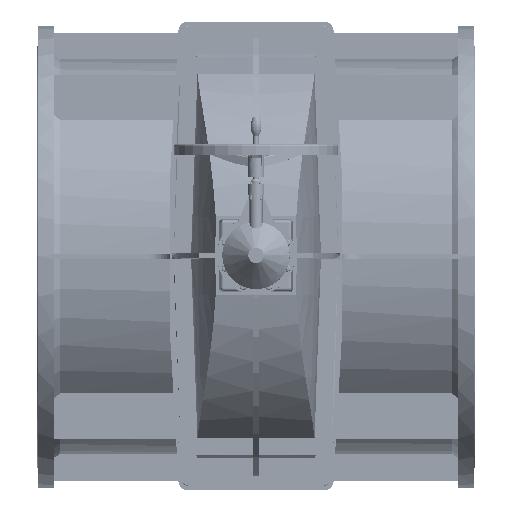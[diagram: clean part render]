
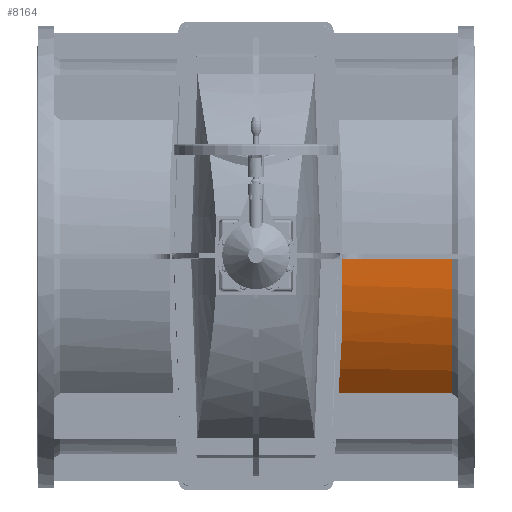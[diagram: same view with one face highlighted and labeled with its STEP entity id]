
A CAD part, top view. The second image highlights one B-rep face of the part: STEP entity #8164.
In plain terms, the highlighted cylindrical face has radius 720 mm (diameter 1440 mm), a partial arc.
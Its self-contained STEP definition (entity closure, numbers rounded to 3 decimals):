
#8164=ADVANCED_FACE('',(#12547),#12549,.T.);
#12547=FACE_BOUND('',#12548,.T.);
#12548=EDGE_LOOP('',(#30185,#30186,#30187,#30188));
#12549=CYLINDRICAL_SURFACE('',#12550,720.);
#12550=AXIS2_PLACEMENT_3D('',#12551,#12552,#12553);
#12551=CARTESIAN_POINT('',(735.,0.,0.));
#12552=DIRECTION('',(-1.,0.,0.));
#12553=DIRECTION('',(0.,1.,0.));
#30185=ORIENTED_EDGE('',*,*,#38823,.F.);
#30186=ORIENTED_EDGE('',*,*,#38953,.T.);
#30187=ORIENTED_EDGE('',*,*,#38917,.F.);
#30188=ORIENTED_EDGE('',*,*,#38882,.T.);
#38823=EDGE_CURVE('',#43644,#43646,#43647,.T.);
#38882=EDGE_CURVE('',#43737,#43646,#43738,.F.);
#38917=EDGE_CURVE('',#43737,#43803,#43804,.F.);
#38953=EDGE_CURVE('',#43644,#43803,#43860,.T.);
#43644=VERTEX_POINT('',#52748);
#43646=VERTEX_POINT('',#52759);
#43647=LINE('',#52760,#52761);
#43737=VERTEX_POINT('',#53000);
#43738=B_SPLINE_CURVE_WITH_KNOTS('',3,
(#53001,#53002,#53003,#53004,#53005,#53006,#53007,#53008,#53009,#53010,#53011,#53012,
#53013,#53014,#53015,#53016,#53017,#53018,#53019,#53020,#53021,#53022,#53023,#53024,
#53025,#53026,#53027,#53028,#53029,#53030,#53031,#53032,#53033,#53034,#53035,#53036),
.UNSPECIFIED.,.F.,.F.,
(4,1,1,1,1,1,1,1,1,1,1,1,1,1,1,1,1,1,1,1,1,1,1,1,1,1,1,1,1,1,1,1,1,4),
(0.,0.033,0.065,0.098,0.13,0.162,
0.194,0.226,0.258,0.29,0.322,
0.354,0.385,0.416,0.447,0.477,
0.516,0.555,0.593,0.62,0.647,
0.675,0.705,0.745,0.785,0.822,
0.848,0.871,0.9,0.928,0.954,
0.972,0.987,1.),
.UNSPECIFIED.);
#43803=VERTEX_POINT('',#53303);
#43804=LINE('',#53304,#53305);
#43860=CIRCLE('',#53491,720.);
#52748=CARTESIAN_POINT('',(715.,-498.964,519.072));
#52759=CARTESIAN_POINT('',(218.196,-498.964,519.072));
#52760=CARTESIAN_POINT('',(715.,-498.964,519.072));
#52761=VECTOR('',#52762,1.);
#52762=DIRECTION('',(-1.,0.,0.));
#53000=CARTESIAN_POINT('',(244.956,-10.,719.931));
#53001=CARTESIAN_POINT('',(218.196,-498.964,519.072));
#53002=CARTESIAN_POINT('',(218.634,-494.721,523.15));
#53003=CARTESIAN_POINT('',(219.514,-486.106,531.23));
#53004=CARTESIAN_POINT('',(220.83,-472.915,543.006));
#53005=CARTESIAN_POINT('',(222.135,-459.492,554.409));
#53006=CARTESIAN_POINT('',(223.424,-445.886,565.409));
#53007=CARTESIAN_POINT('',(224.696,-432.087,576.022));
#53008=CARTESIAN_POINT('',(225.953,-418.058,586.283));
#53009=CARTESIAN_POINT('',(227.191,-403.809,596.186));
#53010=CARTESIAN_POINT('',(228.41,-389.339,605.735));
#53011=CARTESIAN_POINT('',(229.603,-374.685,614.907));
#53012=CARTESIAN_POINT('',(230.766,-359.881,623.686));
#53013=CARTESIAN_POINT('',(231.892,-344.993,632.041));
#53014=CARTESIAN_POINT('',(232.98,-330.032,639.979));
#53015=CARTESIAN_POINT('',(234.024,-315.065,647.477));
#53016=CARTESIAN_POINT('',(235.023,-300.102,654.545));
#53017=CARTESIAN_POINT('',(236.074,-283.605,661.882));
#53018=CARTESIAN_POINT('',(237.159,-265.562,669.347));
#53019=CARTESIAN_POINT('',(238.256,-246.003,676.776));
#53020=CARTESIAN_POINT('',(239.175,-228.338,682.91));
#53021=CARTESIAN_POINT('',(239.938,-212.589,687.951));
#53022=CARTESIAN_POINT('',(240.582,-198.439,692.167));
#53023=CARTESIAN_POINT('',(241.206,-183.718,696.225));
#53024=CARTESIAN_POINT('',(241.883,-166.45,700.584));
#53025=CARTESIAN_POINT('',(242.561,-147.12,704.92));
#53026=CARTESIAN_POINT('',(243.195,-126.303,708.937));
#53027=CARTESIAN_POINT('',(243.668,-108.101,711.908));
#53028=CARTESIAN_POINT('',(244.013,-92.563,714.067));
#53029=CARTESIAN_POINT('',(244.282,-78.586,715.746));
#53030=CARTESIAN_POINT('',(244.514,-64.18,717.188));
#53031=CARTESIAN_POINT('',(244.703,-49.251,718.364));
#53032=CARTESIAN_POINT('',(244.824,-36.372,719.114));
#53033=CARTESIAN_POINT('',(244.896,-25.731,719.558));
#53034=CARTESIAN_POINT('',(244.935,-17.507,719.801));
#53035=CARTESIAN_POINT('',(244.951,-12.383,719.897));
#53036=CARTESIAN_POINT('',(244.956,-10.,719.931));
#53303=CARTESIAN_POINT('',(715.,-10.,719.931));
#53304=CARTESIAN_POINT('',(715.,-10.,719.931));
#53305=VECTOR('',#53306,1.);
#53306=DIRECTION('',(-1.,0.,0.));
#53491=AXIS2_PLACEMENT_3D('',#53492,#53493,#53494);
#53492=CARTESIAN_POINT('',(715.,0.,0.));
#53493=DIRECTION('',(-1.,0.,0.));
#53494=DIRECTION('',(0.,-0.693,0.721));
